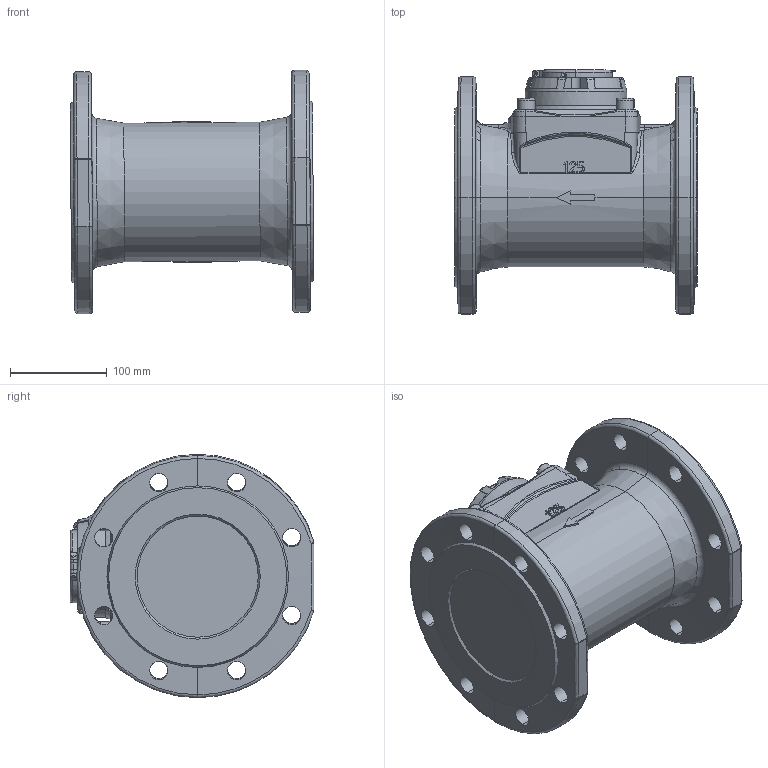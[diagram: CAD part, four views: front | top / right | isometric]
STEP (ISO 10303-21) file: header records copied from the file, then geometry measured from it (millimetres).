
FILE_DESCRIPTION (( 'STEP AP214' ), '1' );
FILE_NAME ('MWN125 IP65 NKO.STEP', '2025-07-09T12:36:37', ( '' ), ( '' ), 'SwSTEP 2.0', 'SolidWorks 2019', '' );
FILE_SCHEMA (( 'AUTOMOTIVE_DESIGN' ));
Length unit declared in the file: millimetre
Products named in the file (1): MWN125 IP65 NKO
Bounding box: 251.03 x 251.8 x 251.32 mm (x, y, z)
Volume: 6045979.1 mm3; surface area: 388365.9 mm2
Topology: 4 solids, 20 shells, 1208 faces, 3112 edges, 1962 vertices
Faces by surface type: plane 523, cylinder 243, bspline 243, cone 120, torus 63, sphere 16
Entity records: 61247 total; most frequent: CARTESIAN_POINT 20724, ORIENTED_EDGE 6128, DIRECTION 4991, EDGE_CURVE 3064, VERTEX_POINT 1962, VECTOR 1667, LINE 1667, AXIS2_PLACEMENT_3D 1662
